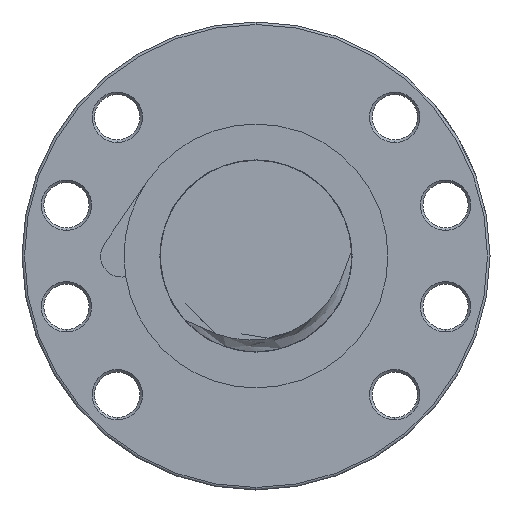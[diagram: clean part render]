
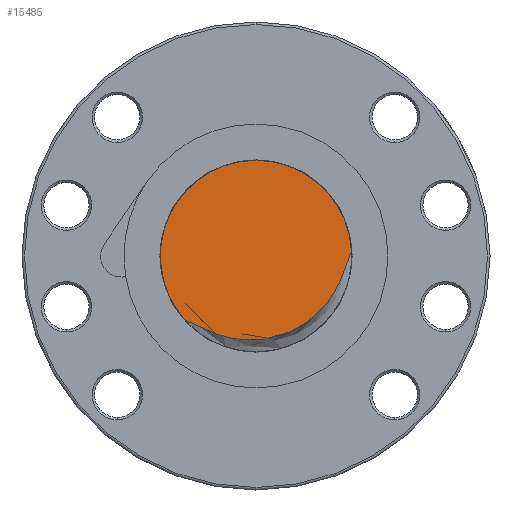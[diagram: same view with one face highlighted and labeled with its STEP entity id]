
A CAD part, left-side view. The second image highlights one B-rep face of the part: STEP entity #15485.
In plain terms, the highlighted planar face has unit normal (-1, 0, 0).
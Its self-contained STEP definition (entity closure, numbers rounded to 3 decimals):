
#799 = CARTESIAN_POINT ( 'NONE',  ( -293., 14.071, -12.767 ) ) ;
#12144 = VERTEX_POINT ( 'NONE', #18702 ) ;
#12288 = EDGE_CURVE ( 'NONE', #18138, #12144, #18855, .T. ) ;
#15485 = ADVANCED_FACE ( 'NONE', ( #28641 ), #28640, .F. ) ;
#15488 = EDGE_LOOP ( 'NONE', ( #15490, #15492, #15495 ) ) ;
#15490 = ORIENTED_EDGE ( 'NONE', *, *, #18135, .F. ) ;
#15492 = ORIENTED_EDGE ( 'NONE', *, *, #15494, .T. ) ;
#15494 = EDGE_CURVE ( 'NONE', #17820, #12144, #28634, .T. ) ;
#15495 = ORIENTED_EDGE ( 'NONE', *, *, #12288, .F. ) ;
#17068 = CARTESIAN_POINT ( 'NONE',  ( -293., 0., 19. ) ) ;
#17114 = DIRECTION ( 'NONE',  ( 0., 1., 0. ) ) ;
#17115 = DIRECTION ( 'NONE',  ( 1., 0., 0. ) ) ;
#17116 = CARTESIAN_POINT ( 'NONE',  ( -293., 0., 0. ) ) ;
#17117 = AXIS2_PLACEMENT_3D ( 'NONE', #17116, #17115, #17114 ) ;
#17118 = CIRCLE ( 'NONE', #17117, 19. ) ;
#17820 = VERTEX_POINT ( 'NONE', #799 ) ;
#18135 = EDGE_CURVE ( 'NONE', #17820, #18138, #17118, .T. ) ;
#18138 = VERTEX_POINT ( 'NONE', #17068 ) ;
#18702 = CARTESIAN_POINT ( 'NONE',  ( -293., -18.978, 0.922 ) ) ;
#18851 = DIRECTION ( 'NONE',  ( 0., 1., 0. ) ) ;
#18852 = DIRECTION ( 'NONE',  ( 1., 0., 0. ) ) ;
#18853 = CARTESIAN_POINT ( 'NONE',  ( -293., 0., 0. ) ) ;
#18854 = AXIS2_PLACEMENT_3D ( 'NONE', #18853, #18852, #18851 ) ;
#18855 = CIRCLE ( 'NONE', #18854, 19. ) ;
#28585 = CARTESIAN_POINT ( 'NONE',  ( -293., -18.978, 0.922 ) ) ;
#28586 = CARTESIAN_POINT ( 'NONE',  ( -293., -18.873, 0.723 ) ) ;
#28587 = CARTESIAN_POINT ( 'NONE',  ( -293., -18.786, 0.518 ) ) ;
#28588 = CARTESIAN_POINT ( 'NONE',  ( -293., -18.623, 0.102 ) ) ;
#28589 = CARTESIAN_POINT ( 'NONE',  ( -293., -18.547, -0.108 ) ) ;
#28590 = CARTESIAN_POINT ( 'NONE',  ( -293., -18.327, -0.741 ) ) ;
#28591 = CARTESIAN_POINT ( 'NONE',  ( -293., -18.189, -1.166 ) ) ;
#28592 = CARTESIAN_POINT ( 'NONE',  ( -293., -17.76, -2.436 ) ) ;
#28593 = CARTESIAN_POINT ( 'NONE',  ( -293., -17.457, -3.278 ) ) ;
#28594 = CARTESIAN_POINT ( 'NONE',  ( -293., -16.769, -4.921 ) ) ;
#28595 = CARTESIAN_POINT ( 'NONE',  ( -293., -16.386, -5.724 ) ) ;
#28596 = CARTESIAN_POINT ( 'NONE',  ( -293., -15.739, -6.895 ) ) ;
#28597 = CARTESIAN_POINT ( 'NONE',  ( -293., -15.511, -7.281 ) ) ;
#28598 = CARTESIAN_POINT ( 'NONE',  ( -293., -15.034, -8.032 ) ) ;
#28599 = CARTESIAN_POINT ( 'NONE',  ( -293., -14.785, -8.398 ) ) ;
#28600 = CARTESIAN_POINT ( 'NONE',  ( -293., -14.003, -9.471 ) ) ;
#28601 = CARTESIAN_POINT ( 'NONE',  ( -293., -13.438, -10.15 ) ) ;
#28602 = CARTESIAN_POINT ( 'NONE',  ( -293., -12.522, -11.112 ) ) ;
#28603 = CARTESIAN_POINT ( 'NONE',  ( -293., -12.205, -11.424 ) ) ;
#28604 = CARTESIAN_POINT ( 'NONE',  ( -293., -11.547, -12.026 ) ) ;
#28605 = CARTESIAN_POINT ( 'NONE',  ( -293., -11.206, -12.317 ) ) ;
#28606 = CARTESIAN_POINT ( 'NONE',  ( -293., -9.468, -13.699 ) ) ;
#28607 = CARTESIAN_POINT ( 'NONE',  ( -293., -7.949, -14.597 ) ) ;
#28608 = CARTESIAN_POINT ( 'NONE',  ( -293., -5.469, -15.619 ) ) ;
#28609 = CARTESIAN_POINT ( 'NONE',  ( -293., -4.626, -15.898 ) ) ;
#28610 = CARTESIAN_POINT ( 'NONE',  ( -293., -2.92, -16.334 ) ) ;
#28611 = CARTESIAN_POINT ( 'NONE',  ( -293., -2.055, -16.491 ) ) ;
#28612 = CARTESIAN_POINT ( 'NONE',  ( -293., -0.74, -16.637 ) ) ;
#28613 = CARTESIAN_POINT ( 'NONE',  ( -293., -0.299, -16.671 ) ) ;
#28614 = CARTESIAN_POINT ( 'NONE',  ( -293., 0.59, -16.708 ) ) ;
#28615 = CARTESIAN_POINT ( 'NONE',  ( -293., 1.039, -16.712 ) ) ;
#28616 = CARTESIAN_POINT ( 'NONE',  ( -293., 2.373, -16.677 ) ) ;
#28617 = CARTESIAN_POINT ( 'NONE',  ( -293., 3.252, -16.594 ) ) ;
#28618 = CARTESIAN_POINT ( 'NONE',  ( -293., 4.99, -16.316 ) ) ;
#28619 = CARTESIAN_POINT ( 'NONE',  ( -293., 5.849, -16.122 ) ) ;
#28620 = CARTESIAN_POINT ( 'NONE',  ( -293., 7.55, -15.631 ) ) ;
#28621 = CARTESIAN_POINT ( 'NONE',  ( -293., 8.394, -15.332 ) ) ;
#28625 = CARTESIAN_POINT ( 'NONE',  ( -293., 10.041, -14.655 ) ) ;
#28626 = CARTESIAN_POINT ( 'NONE',  ( -293., 10.847, -14.275 ) ) ;
#28627 = CARTESIAN_POINT ( 'NONE',  ( -293., 12.044, -13.682 ) ) ;
#28628 = CARTESIAN_POINT ( 'NONE',  ( -293., 12.442, -13.48 ) ) ;
#28629 = CARTESIAN_POINT ( 'NONE',  ( -293., 13.043, -13.189 ) ) ;
#28630 = CARTESIAN_POINT ( 'NONE',  ( -293., 13.245, -13.094 ) ) ;
#28631 = CARTESIAN_POINT ( 'NONE',  ( -293., 13.653, -12.916 ) ) ;
#28632 = CARTESIAN_POINT ( 'NONE',  ( -293., 13.859, -12.833 ) ) ;
#28633 = CARTESIAN_POINT ( 'NONE',  ( -293., 14.071, -12.767 ) ) ;
#28634 = B_SPLINE_CURVE_WITH_KNOTS ( 'NONE', 3,
 ( #28633, #28632, #28631, #28630, #28629, #28628, #28627, #28626, #28625, #28621, #28620, #28619, #28618, #28617, #28616, #28615, #28614, #28613, #28612, #28611, #28610, #28609, #28608, #28607, #28606, #28605, #28604, #28603, #28602, #28601, #28600, #28599, #28598, #28597, #28596, #28595, #28594, #28593, #28592, #28591, #28590, #28589, #28588, #28587, #28586, #28585 ),
 .UNSPECIFIED., .F., .F.,
 ( 4, 2, 2, 2, 2, 2, 2, 2, 2, 2, 2, 2, 2, 2, 2, 2, 2, 2, 2, 2, 2, 2, 4 ),
 ( 0.009, 0.01, 0.01, 0.012, 0.014, 0.017, 0.02, 0.022, 0.024, 0.025, 0.027, 0.03, 0.035, 0.037, 0.038, 0.041, 0.042, 0.043, 0.046, 0.049, 0.05, 0.05, 0.051 ),
 .UNSPECIFIED. ) ;
#28636 = DIRECTION ( 'NONE',  ( 0., 0., -1. ) ) ;
#28637 = DIRECTION ( 'NONE',  ( 1., 0., 0. ) ) ;
#28638 = CARTESIAN_POINT ( 'NONE',  ( -293., 0., 0. ) ) ;
#28639 = AXIS2_PLACEMENT_3D ( 'NONE', #28638, #28637, #28636 ) ;
#28640 = PLANE ( 'NONE',  #28639 ) ;
#28641 = FACE_OUTER_BOUND ( 'NONE', #15488, .T. ) ;
